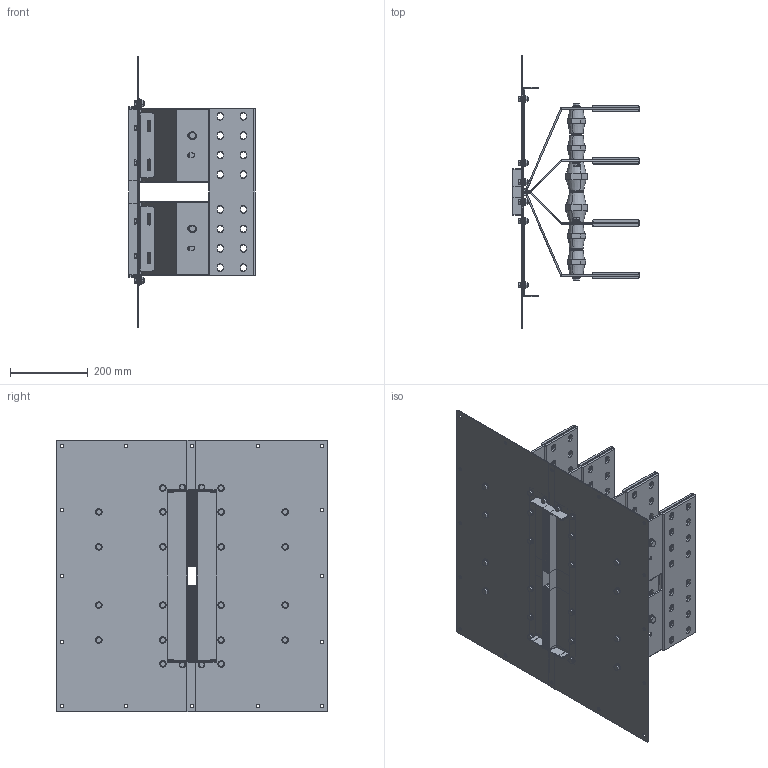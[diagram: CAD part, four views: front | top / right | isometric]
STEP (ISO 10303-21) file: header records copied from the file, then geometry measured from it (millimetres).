
FILE_DESCRIPTION(('CATIA V5 STEP','CAx-IF Rec.Pracs.--- Model Styling and Organization---1.5--- 2016-08-15','CAx-IF Rec.Pracs.---Supplemental Geometry---1.0---2011-11-01','CAx-IF Rec.Pracs.--- Composite Materials ---1.1---2010-07-15'),'2;1');
FILE_NAME('K:\COSCN 2011\32372311_RiduzioneSezioniBarre\03_Studio\__Modelli semplificati\XCP_UB semplificati per studi\XCP-S_UB_4C_Pe_CRT_Assieme\Al\XCP-S_UB_4C_Pe_D_Assieme - 3200A Al\XCP-S_UB_4C_Pe_D_Assieme - 3200A Al_CRT.stp','2025-05-12T12:39:11+00:00',('Utente Bticino'),('Bticino S.p.A.'),'CATIA Version 5-6 Release 2020 SP5','CATIA V5 STEP AP214 v2','none');
FILE_SCHEMA(('AUTOMOTIVE_DESIGN { 1 0 10303 214 1 1 1 1 }'));
Length unit declared in the file: millimetre
Products named in the file (30): XCP-S_UB_4C_Pe_D_Assieme - 3200A Al_CRT; XCP-S_UB_4C_Pe_D_PaccoBarre_3200A Al_CRT; XCP-S_UB_4C_Pe_D_Lamiere_3200A Al_CRT; XCP-S_UB_4C_Pe_D_PaccoBarre_3200A Al_CRT_1; XCP-S_UB_4C_Pe_D - 3200A Al_Bandelle parallelo_CRT; 130006; 130184; 00750033 - RONDELLA PIANA 4.8 D.12 UNI 6592 ZB; Ass_M10x25.1; 00740025 M10x25 UNI5739; Rondella spac M10 UNI 1751; 00750005; 130006_1; 00750033 - RONDELLA PIANA 4.8 D.12 UNI 6592 ZB_1; 130184_1; 130006_2; 00750033 - RONDELLA PIANA 4.8 D.12 UNI 6592 ZB_2; 130006_3; 130006_4; 130184_2; 00750033 - RONDELLA PIANA 4.8 D.12 UNI 6592 ZB_3; 130006_5; 00750033 - RONDELLA PIANA 4.8 D.12 UNI 6592 ZB_4; 130184_3; 130006_6; 00750033 - RONDELLA PIANA 4.8 D.12 UNI 6592 ZB_5; 130006_7; Ass Vite+dado M8; Steel hex flanged SCREW M12x16; Steel hex flanged NUT M8
Assembly tree (63 placements, depth 3):
  XCP-S_UB_4C_Pe_D_Assieme - 3200A Al_CRT
    XCP-S_UB_4C_Pe_D_PaccoBarre_3200A Al_CRT
    XCP-S_UB_4C_Pe_D_Lamiere_3200A Al_CRT
    XCP-S_UB_4C_Pe_D_PaccoBarre_3200A Al_CRT_1
    XCP-S_UB_4C_Pe_D - 3200A Al_Bandelle parallelo_CRT
    130006
    130184
    00750033 - RONDELLA PIANA 4.8 D.12 UNI 6592 ZB
    Ass_M10x25.1  x12
      00740025 M10x25 UNI5739
      Rondella spac M10 UNI 1751
      00750005
    130006_1
    00750033 - RONDELLA PIANA 4.8 D.12 UNI 6592 ZB_1
    130184_1
    130006_2
    00750033 - RONDELLA PIANA 4.8 D.12 UNI 6592 ZB_2
    130006_3
    130006_4
    130184_2
    00750033 - RONDELLA PIANA 4.8 D.12 UNI 6592 ZB_3
    130006_5
    00750033 - RONDELLA PIANA 4.8 D.12 UNI 6592 ZB_4
    130184_3
    130006_6
    00750033 - RONDELLA PIANA 4.8 D.12 UNI 6592 ZB_5
    130006_7
    Ass Vite+dado M8  x24
      Steel hex flanged SCREW M12x16
      Steel hex flanged NUT M8
Bounding box: 325 x 700 x 700 mm (x, y, z)
Volume: 7336904 mm3; surface area: 3895069.6 mm2
Topology: 132 solids, 132 shells, 3416 faces, 8496 edges, 5404 vertices
Faces by surface type: plane 1560, cylinder 1120, cone 336, bspline 288, torus 112
Entity records: 57570 total; most frequent: CARTESIAN_POINT 11216, ORIENTED_EDGE 10304, DIRECTION 7318, EDGE_CURVE 5152, VERTEX_POINT 3336, VECTOR 3164, LINE 3164, AXIS2_PLACEMENT_3D 3016
